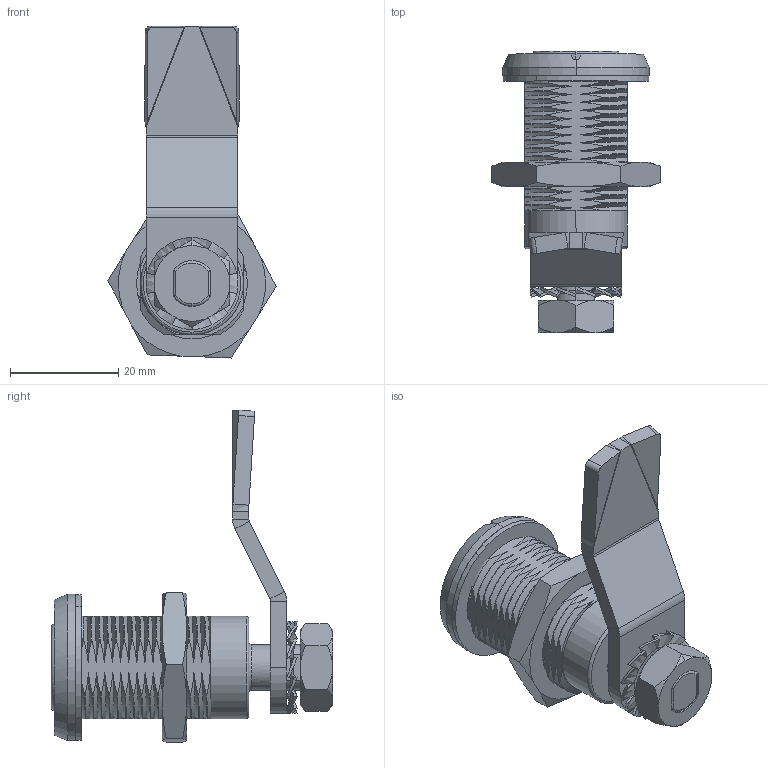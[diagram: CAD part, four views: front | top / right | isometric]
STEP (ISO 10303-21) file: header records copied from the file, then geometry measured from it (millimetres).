
FILE_DESCRIPTION (( 'STEP AP203' ), '1' );
FILE_NAME ('SK1-016-1S.STEP', '2018-05-11T08:37:38', ( 'admin' ), ( 'Microsoft' ), 'SwSTEP 2.0', 'SolidWorks 2015', '' );
FILE_SCHEMA (( 'CONFIG_CONTROL_DESIGN' ));
Products named in the file (6): SK1-016-1S; SK1-016-1S坶え; SK1-016-1S.1; M22蹟譫; SK1-016-1S.菜え
Assembly tree (5 placements, depth 2):
  SK1-016-1S
    SK1-016-1S
    SK1-016-1S坶え
    SK1-016-1S.1
    M22蹟譫
    SK1-016-1S.菜え
Bounding box: 31.16 x 52 x 61.37 mm (x, y, z)
Volume: 17154.5 mm3; surface area: 10755.4 mm2
Topology: 5 solids, 5 shells, 507 faces, 1397 edges, 854 vertices
Faces by surface type: bspline 240, cylinder 123, plane 107, cone 28, torus 9
Entity records: 93332 total; most frequent: CARTESIAN_POINT 82732, ORIENTED_EDGE 2688, EDGE_CURVE 1344, DIRECTION 1260, VERTEX_POINT 854, B_SPLINE_CURVE_WITH_KNOTS 579, EDGE_LOOP 522, FACE_OUTER_BOUND 507
